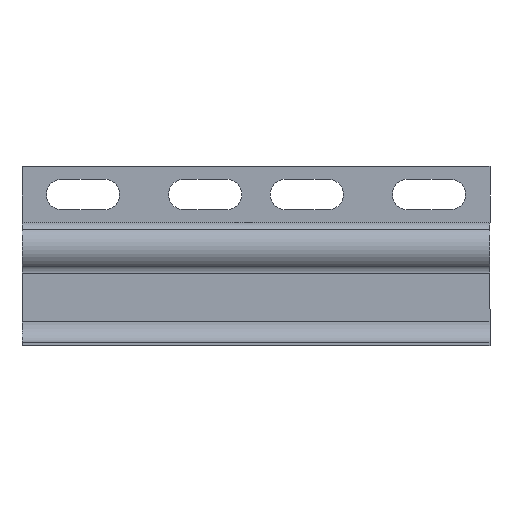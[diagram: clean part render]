
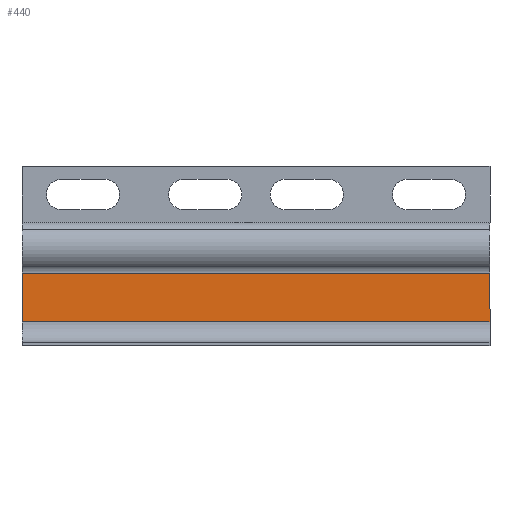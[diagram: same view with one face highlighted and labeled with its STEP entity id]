
A CAD part, top view. The second image highlights one B-rep face of the part: STEP entity #440.
In plain terms, the highlighted planar face has unit normal (0, 0, 1).
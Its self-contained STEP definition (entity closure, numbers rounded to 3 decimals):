
#39 = EDGE_CURVE ( 'NONE', #1248, #874, #57, .T. ) ;
#57 = LINE ( 'NONE', #292, #1382 ) ;
#134 = ORIENTED_EDGE ( 'NONE', *, *, #1200, .T. ) ;
#177 = CARTESIAN_POINT ( 'NONE',  ( 57.5, -27., 0.8 ) ) ;
#235 = EDGE_CURVE ( 'NONE', #874, #692, #805, .T. ) ;
#247 = PLANE ( 'NONE',  #1067 ) ;
#292 = CARTESIAN_POINT ( 'NONE',  ( -57.5, -27., 0.8 ) ) ;
#363 = CARTESIAN_POINT ( 'NONE',  ( 57.5, 27., 0.8 ) ) ;
#429 = VECTOR ( 'NONE', #709, 1000. ) ;
#440 = ADVANCED_FACE ( 'NONE', ( #679 ), #247, .F. ) ;
#564 = CARTESIAN_POINT ( 'NONE',  ( -57.5, 0.755, 0.8 ) ) ;
#666 = CARTESIAN_POINT ( 'NONE',  ( 57.5, -11.2, 0.8 ) ) ;
#679 = FACE_OUTER_BOUND ( 'NONE', #1025, .T. ) ;
#692 = VERTEX_POINT ( 'NONE', #666 ) ;
#693 = CARTESIAN_POINT ( 'NONE',  ( -57.5, -11.2, 0.8 ) ) ;
#709 = DIRECTION ( 'NONE',  ( 0., 1., 0. ) ) ;
#713 = ORIENTED_EDGE ( 'NONE', *, *, #235, .T. ) ;
#799 = CARTESIAN_POINT ( 'NONE',  ( 57.5, -11.2, 0.8 ) ) ;
#805 = LINE ( 'NONE', #799, #1326 ) ;
#811 = VECTOR ( 'NONE', #1124, 1000. ) ;
#815 = DIRECTION ( 'NONE',  ( 1., 0., 0. ) ) ;
#825 = ORIENTED_EDGE ( 'NONE', *, *, #39, .T. ) ;
#874 = VERTEX_POINT ( 'NONE', #693 ) ;
#910 = LINE ( 'NONE', #1318, #811 ) ;
#1000 = VERTEX_POINT ( 'NONE', #1407 ) ;
#1008 = LINE ( 'NONE', #177, #429 ) ;
#1025 = EDGE_LOOP ( 'NONE', ( #1272, #134, #825, #713 ) ) ;
#1059 = DIRECTION ( 'NONE',  ( 0., -1., 0. ) ) ;
#1067 = AXIS2_PLACEMENT_3D ( 'NONE', #363, #1337, #1215 ) ;
#1124 = DIRECTION ( 'NONE',  ( -1., 0., 0. ) ) ;
#1200 = EDGE_CURVE ( 'NONE', #1000, #1248, #910, .T. ) ;
#1215 = DIRECTION ( 'NONE',  ( -1., 0., 0. ) ) ;
#1248 = VERTEX_POINT ( 'NONE', #564 ) ;
#1272 = ORIENTED_EDGE ( 'NONE', *, *, #1290, .T. ) ;
#1290 = EDGE_CURVE ( 'NONE', #692, #1000, #1008, .T. ) ;
#1318 = CARTESIAN_POINT ( 'NONE',  ( 70.345, 0.755, 0.8 ) ) ;
#1326 = VECTOR ( 'NONE', #815, 1000. ) ;
#1337 = DIRECTION ( 'NONE',  ( 0., 0., -1. ) ) ;
#1382 = VECTOR ( 'NONE', #1059, 1000. ) ;
#1407 = CARTESIAN_POINT ( 'NONE',  ( 57.5, 0.755, 0.8 ) ) ;
